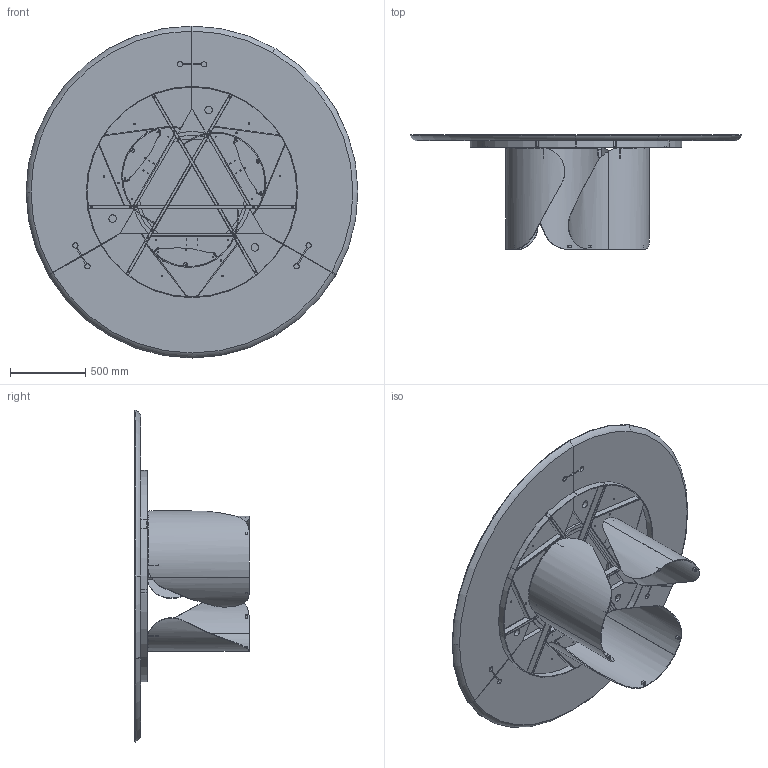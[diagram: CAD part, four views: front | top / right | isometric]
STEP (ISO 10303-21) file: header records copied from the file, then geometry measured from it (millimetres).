
FILE_DESCRIPTION (( 'STEP AP203' ), '1' );
FILE_NAME ('ON18L_Onda_d.220_WoodCeramic.STEP', '2024-07-31T13:03:26', ( '' ), ( '' ), 'SwSTEP 2.0', 'SolidWorks 2022', '' );
FILE_SCHEMA (( 'CONFIG_CONTROL_DESIGN' ));
Length unit declared in the file: millimetre
Products named in the file (17): W17_01-00-SPICCHIO PER PIANO LEGNO D.220cm; K90X-00-SOLO CERAMICA; OND000000_02-00-CILINDRO DI FISSAGGIO Ø25X17 M8; OND000000-03-ONDA BASE GREZZA; CUSCINETTO SFERE Ø800; Vite Legno 3,0xXX_S4.5x40; W17_03-00-PIANO + LAMA; TTAV11GR_02-02-RING; ON18L_Onda_d.220_WoodCeramic; LAM000001-00-LAME METALLO X TAVOLI LEG CER D220 GREZZO; TTAV11GR_01-02-TRAVERSO; OND000000_03-00-LAMIERA CURVATA PRINCIPALE_OND00000X-00-ONDA BASE GREZZA PROTOTIPO; spina_SPINA Ø10X40; TTAV11GR_04-02-ANCORAGGIO DORIAN; TTAV11GR_03-02-PIASTRA; TTAV11GR-02-TELAIO X TAVOLO LEG-CER D220; OND000000_01-00-PIASTRA SUPERIORE BASE ONDA
Assembly tree (34 placements, depth 3):
  ON18L_Onda_d.220_WoodCeramic
    TTAV11GR-02-TELAIO X TAVOLO LEG-CER D220
      TTAV11GR_01-02-TRAVERSO  x3
      TTAV11GR_02-02-RING
      TTAV11GR_03-02-PIASTRA  x3
      TTAV11GR_04-02-ANCORAGGIO DORIAN  x6
    OND000000-03-ONDA BASE GREZZA  x3
      OND000000_03-00-LAMIERA CURVATA PRINCIPALE_OND00000X-00-ONDA BASE GREZZA PROTOTIPO
      OND000000_01-00-PIASTRA SUPERIORE BASE ONDA
      OND000000_02-00-CILINDRO DI FISSAGGIO Ø25X17 M8
    W17_03-00-PIANO + LAMA  x3
      W17_01-00-SPICCHIO PER PIANO LEGNO D.220cm
      LAM000001-00-LAME METALLO X TAVOLI LEG CER D220 GREZZO
      Vite Legno 3,0xXX_S4.5x40
      spina_SPINA Ø10X40
    CUSCINETTO SFERE Ø800
    K90X-00-SOLO CERAMICA
Bounding box: 2199.96 x 758.25 x 2200.25 mm (x, y, z)
Volume: 140542945.9 mm3; surface area: 16171520.2 mm2
Topology: 52 solids, 52 shells, 2194 faces, 5927 edges, 3753 vertices
Faces by surface type: cylinder 875, plane 715, bspline 276, cone 190, torus 138
Full cylindrical faces by diameter (mm): 1390 x1, 1400 x1
Entity records: 29727 total; most frequent: CARTESIAN_POINT 13120, ORIENTED_EDGE 3054, DIRECTION 2871, EDGE_CURVE 1527, AXIS2_PLACEMENT_3D 1064, VERTEX_POINT 975, LINE 743, VECTOR 743
